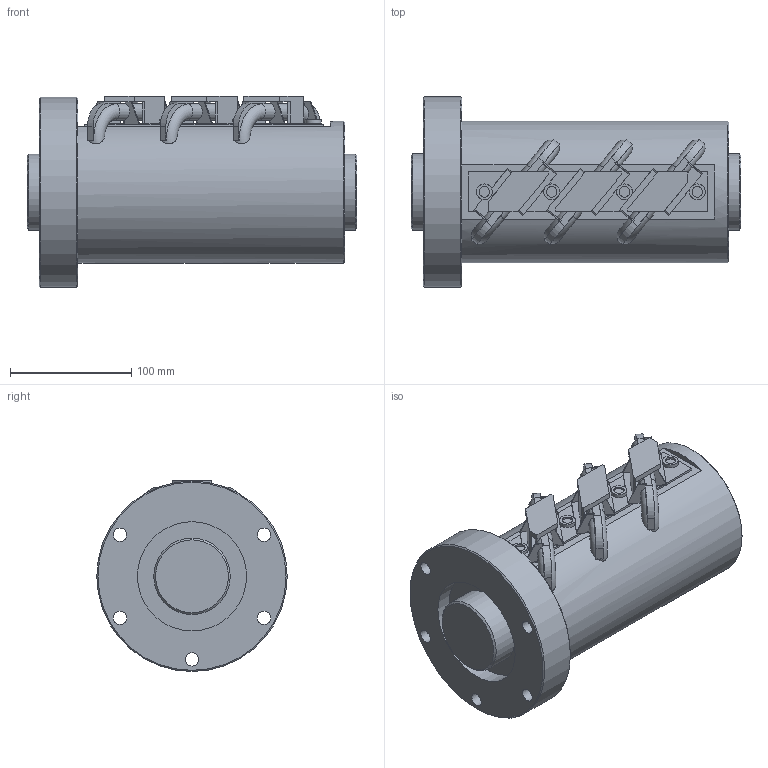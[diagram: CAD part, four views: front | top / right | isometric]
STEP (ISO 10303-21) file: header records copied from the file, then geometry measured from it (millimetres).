
FILE_DESCRIPTION(/* description */ ('STEP AP203'),/* implementation_level */ '2;1');
FILE_NAME(/* name */ 'HBN6320-7.5RRG2+272LC0(0G200)_rev',/* time_stamp */ '2024-07-04T08:18:15+02:00',/* author */ ('License CC BY-ND 4.0'),/* organization */ ('CADENAS'),/* preprocessor_version */ 'ST-DEVELOPER v19.3',/* originating_system */ 'PARTsolutions',/* authorisation */ ' ');
FILE_SCHEMA (('CONFIG_CONTROL_DESIGN'));
Length unit declared in the file: millimetre
Products named in the file (3): HBN6320-7.5RRG2+272LC0(0G200)_rev; HBN6320-7.5 RRG1+272L C0(01000) Shaft; HBN6320-7.5 RRG1+262L C0(0100) Nut
Assembly tree (2 placements, depth 2):
  HBN6320-7.5RRG2+272LC0(0G200)_rev
    HBN6320-7.5 RRG1+272L C0(01000) Shaft
    HBN6320-7.5 RRG1+262L C0(0100) Nut
Bounding box: 272 x 157 x 157.5 mm (x, y, z)
Volume: 3011432.9 mm3; surface area: 281126 mm2
Topology: 2 solids, 2 shells, 241 faces, 739 edges, 476 vertices
Faces by surface type: plane 189, cylinder 35, cone 11, torus 6
Full cylindrical faces by diameter (mm): 4.333 x4, 8.566 x3, 8.667 x4, 11 x5, 13 x4, 63 x2, 90 x2, 117 x1, 157 x1
Entity records: 8264 total; most frequent: CARTESIAN_POINT 1665, ORIENTED_EDGE 1374, DIRECTION 1276, EDGE_CURVE 687, LINE 524, VECTOR 524, VERTEX_POINT 464, AXIS2_PLACEMENT_3D 376
